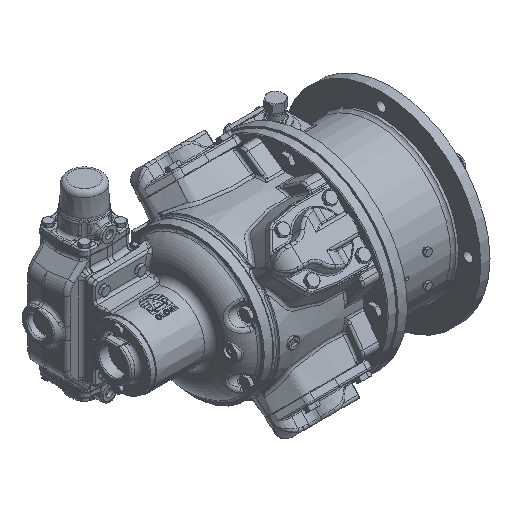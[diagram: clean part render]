
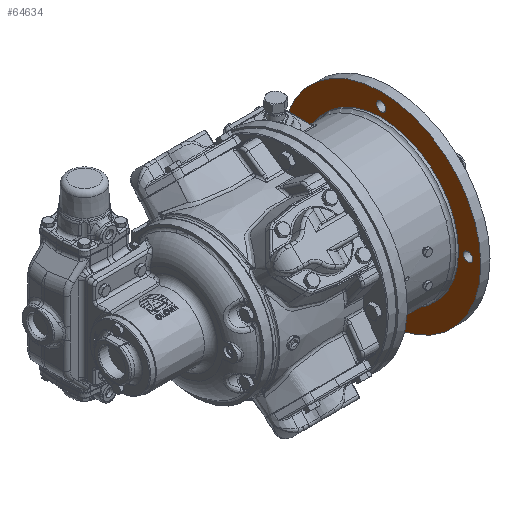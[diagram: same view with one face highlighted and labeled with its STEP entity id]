
A CAD part, isometric view. The second image highlights one B-rep face of the part: STEP entity #64634.
In plain terms, the highlighted planar face has unit normal (-1, 0, 0).
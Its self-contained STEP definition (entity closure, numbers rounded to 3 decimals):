
#1911 = DIRECTION ( 'NONE',  ( 0., 0., -1. ) ) ;
#6994 = VERTEX_POINT ( 'NONE', #34404 ) ;
#13791 = CIRCLE ( 'NONE', #165994, 152. ) ;
#19000 = AXIS2_PLACEMENT_3D ( 'NONE', #164875, #197336, #180080 ) ;
#19962 = EDGE_LOOP ( 'NONE', ( #175957 ) ) ;
#19964 = FACE_BOUND ( 'NONE', #25642, .T. ) ;
#20978 = FACE_OUTER_BOUND ( 'NONE', #99216, .T. ) ;
#24459 = CARTESIAN_POINT ( 'NONE',  ( 194.15, 0., -139.5 ) ) ;
#24897 = EDGE_CURVE ( 'NONE', #27476, #27476, #106073, .T. ) ;
#25642 = EDGE_LOOP ( 'NONE', ( #108925 ) ) ;
#26466 = CARTESIAN_POINT ( 'NONE',  ( 194.15, 0., 125.5 ) ) ;
#27476 = VERTEX_POINT ( 'NONE', #24459 ) ;
#28202 = VERTEX_POINT ( 'NONE', #146881 ) ;
#28597 = EDGE_CURVE ( 'NONE', #90348, #90348, #140820, .T. ) ;
#30422 = CARTESIAN_POINT ( 'NONE',  ( 194.15, 132.5, 0. ) ) ;
#31910 = DIRECTION ( 'NONE',  ( -1., 0., 0. ) ) ;
#34404 = CARTESIAN_POINT ( 'NONE',  ( 194.15, -132.5, -7. ) ) ;
#38377 = EDGE_CURVE ( 'NONE', #56892, #56892, #125874, .T. ) ;
#38464 = CARTESIAN_POINT ( 'NONE',  ( 194.15, 0., -132.5 ) ) ;
#42542 = ORIENTED_EDGE ( 'NONE', *, *, #24897, .F. ) ;
#50295 = FACE_BOUND ( 'NONE', #133426, .T. ) ;
#51343 = CARTESIAN_POINT ( 'NONE',  ( 194.15, 118., 0. ) ) ;
#54094 = ORIENTED_EDGE ( 'NONE', *, *, #28597, .F. ) ;
#54764 = CIRCLE ( 'NONE', #184222, 7. ) ;
#56892 = VERTEX_POINT ( 'NONE', #181491 ) ;
#64634 = ADVANCED_FACE ( 'NONE', ( #158817, #50295, #19964, #81872, #20978, #177013 ), #142657, .F. ) ;
#80621 = EDGE_LOOP ( 'NONE', ( #153358 ) ) ;
#81872 = FACE_BOUND ( 'NONE', #198224, .T. ) ;
#81923 = AXIS2_PLACEMENT_3D ( 'NONE', #30422, #109485, #1911 ) ;
#82282 = ORIENTED_EDGE ( 'NONE', *, *, #116930, .F. ) ;
#83185 = DIRECTION ( 'NONE',  ( -1., 0., 0. ) ) ;
#85226 = CIRCLE ( 'NONE', #81923, 7. ) ;
#87225 = DIRECTION ( 'NONE',  ( 0., 0., -1. ) ) ;
#90193 = CARTESIAN_POINT ( 'NONE',  ( 194.15, 0., 0. ) ) ;
#90348 = VERTEX_POINT ( 'NONE', #26466 ) ;
#97582 = DIRECTION ( 'NONE',  ( 0., 0., -1. ) ) ;
#99046 = DIRECTION ( 'NONE',  ( 1., 0., 0. ) ) ;
#99216 = EDGE_LOOP ( 'NONE', ( #82282 ) ) ;
#106073 = CIRCLE ( 'NONE', #109256, 7. ) ;
#106422 = EDGE_CURVE ( 'NONE', #6994, #6994, #54764, .T. ) ;
#108925 = ORIENTED_EDGE ( 'NONE', *, *, #106422, .F. ) ;
#109256 = AXIS2_PLACEMENT_3D ( 'NONE', #38464, #83185, #87225 ) ;
#109485 = DIRECTION ( 'NONE',  ( -1., 0., 0. ) ) ;
#109772 = CARTESIAN_POINT ( 'NONE',  ( 194.15, 0., 132.5 ) ) ;
#113283 = DIRECTION ( 'NONE',  ( 0., 0., -1. ) ) ;
#115476 = VERTEX_POINT ( 'NONE', #177242 ) ;
#116930 = EDGE_CURVE ( 'NONE', #115476, #115476, #13791, .T. ) ;
#120597 = DIRECTION ( 'NONE',  ( 0., 0., -1. ) ) ;
#125874 = CIRCLE ( 'NONE', #19000, 118. ) ;
#126029 = DIRECTION ( 'NONE',  ( -1., 0., 0. ) ) ;
#127958 = AXIS2_PLACEMENT_3D ( 'NONE', #109772, #126029, #97582 ) ;
#132126 = EDGE_CURVE ( 'NONE', #28202, #28202, #85226, .T. ) ;
#133426 = EDGE_LOOP ( 'NONE', ( #42542 ) ) ;
#140820 = CIRCLE ( 'NONE', #127958, 7. ) ;
#142657 = PLANE ( 'NONE',  #168646 ) ;
#146881 = CARTESIAN_POINT ( 'NONE',  ( 194.15, 132.5, -7. ) ) ;
#153358 = ORIENTED_EDGE ( 'NONE', *, *, #38377, .T. ) ;
#158817 = FACE_BOUND ( 'NONE', #19962, .T. ) ;
#164875 = CARTESIAN_POINT ( 'NONE',  ( 194.15, 0., 0. ) ) ;
#165994 = AXIS2_PLACEMENT_3D ( 'NONE', #90193, #178328, #120597 ) ;
#167723 = DIRECTION ( 'NONE',  ( 0., 0., -1. ) ) ;
#168646 = AXIS2_PLACEMENT_3D ( 'NONE', #51343, #99046, #113283 ) ;
#175957 = ORIENTED_EDGE ( 'NONE', *, *, #132126, .F. ) ;
#177013 = FACE_BOUND ( 'NONE', #80621, .T. ) ;
#177242 = CARTESIAN_POINT ( 'NONE',  ( 194.15, 0., -152. ) ) ;
#178328 = DIRECTION ( 'NONE',  ( 1., 0., 0. ) ) ;
#180080 = DIRECTION ( 'NONE',  ( 0., 0., -1. ) ) ;
#181491 = CARTESIAN_POINT ( 'NONE',  ( 194.15, 0., -118. ) ) ;
#184222 = AXIS2_PLACEMENT_3D ( 'NONE', #198227, #31910, #167723 ) ;
#197336 = DIRECTION ( 'NONE',  ( 1., 0., 0. ) ) ;
#198224 = EDGE_LOOP ( 'NONE', ( #54094 ) ) ;
#198227 = CARTESIAN_POINT ( 'NONE',  ( 194.15, -132.5, 0. ) ) ;
